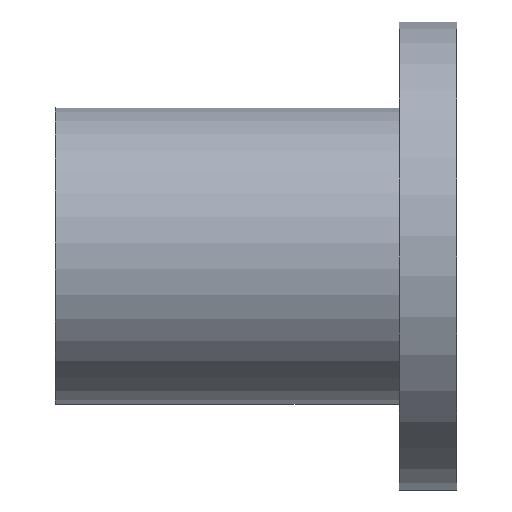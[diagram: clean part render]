
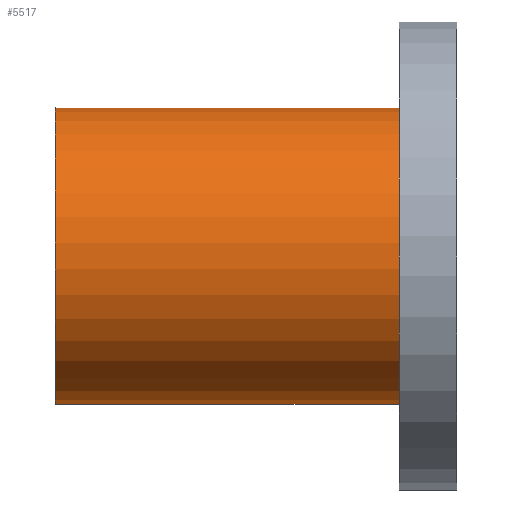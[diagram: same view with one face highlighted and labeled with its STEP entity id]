
A CAD part, front view. The second image highlights one B-rep face of the part: STEP entity #5517.
In plain terms, the highlighted cylindrical face has radius 26 mm (diameter 52 mm), a full revolution.
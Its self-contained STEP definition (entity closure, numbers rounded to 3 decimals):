
#81=CYLINDRICAL_SURFACE('',#5868,26.);
#110=CIRCLE('',#5869,26.);
#111=CIRCLE('',#5870,26.);
#1678=ORIENTED_EDGE('',*,*,#3274,.T.);
#1679=ORIENTED_EDGE('',*,*,#3275,.T.);
#3274=EDGE_CURVE('',#4072,#4072,#110,.T.);
#3275=EDGE_CURVE('',#4073,#4073,#111,.F.);
#4072=VERTEX_POINT('',#8778);
#4073=VERTEX_POINT('',#8780);
#4527=EDGE_LOOP('',(#1678));
#4528=EDGE_LOOP('',(#1679));
#4921=FACE_BOUND('',#4527,.T.);
#4922=FACE_BOUND('',#4528,.T.);
#5517=ADVANCED_FACE('',(#4921,#4922),#81,.T.);
#5868=AXIS2_PLACEMENT_3D('',#8776,#6369,#6370);
#5869=AXIS2_PLACEMENT_3D('',#8777,#6371,#6372);
#5870=AXIS2_PLACEMENT_3D('',#8779,#6373,#6374);
#6369=DIRECTION('',(1.,0.,0.));
#6370=DIRECTION('',(0.,0.707,-0.707));
#6371=DIRECTION('',(1.,0.,0.));
#6372=DIRECTION('',(0.,0.707,-0.707));
#6373=DIRECTION('',(1.,0.,0.));
#6374=DIRECTION('',(0.,0.707,-0.707));
#8776=CARTESIAN_POINT('',(-35.,0.,0.));
#8777=CARTESIAN_POINT('',(-35.,0.,0.));
#8778=CARTESIAN_POINT('',(-35.,18.385,-18.385));
#8779=CARTESIAN_POINT('',(25.,0.,0.));
#8780=CARTESIAN_POINT('',(25.,18.385,-18.385));
